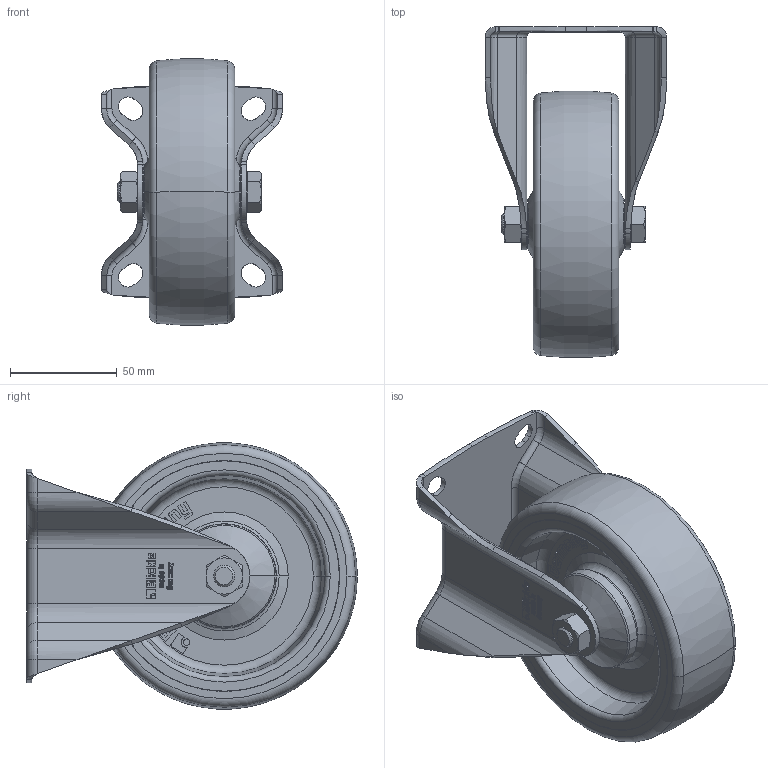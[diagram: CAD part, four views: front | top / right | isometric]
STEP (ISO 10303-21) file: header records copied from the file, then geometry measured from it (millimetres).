
FILE_DESCRIPTION (( 'STEP AP214' ), '1' );
FILE_NAME ('BK-POTHS_125KA-1_936308-214.step', '2021-12-07T10:44:00', ( '' ), ( '' ), 'SwSTEP 2.0', 'SolidWorks 2018', '' );
FILE_SCHEMA (( 'AUTOMOTIVE_DESIGN' ));
Length unit declared in the file: millimetre
Products named in the file (5): GH-BK_80-125_GH-BK-125x45-01_10x46; GH-BK-125x45-01_10x46_G16_3D; POTHS_125_10KA_G16_3D; POTHS_3D_G16_POTHS_125_10K_933121; BK-POTHS_125KA-1_936308-214
Assembly tree (4 placements, depth 3):
  BK-POTHS_125KA-1_936308-214
    GH-BK_80-125_GH-BK-125x45-01_10x46
      GH-BK-125x45-01_10x46_G16_3D
    POTHS_3D_G16_POTHS_125_10K_933121
      POTHS_125_10KA_G16_3D
Bounding box: 85 x 154.88 x 124.55 mm (x, y, z)
Volume: 350579 mm3; surface area: 112801.9 mm2
Topology: 2 solids, 6 shells, 1789 faces, 4718 edges, 3077 vertices
Faces by surface type: plane 868, bspline 640, cylinder 112, torus 86, cone 83
Entity records: 74154 total; most frequent: CARTESIAN_POINT 22677, ORIENTED_EDGE 9436, DIRECTION 6201, EDGE_CURVE 4718, VERTEX_POINT 3077, VECTOR 2851, LINE 2851, EDGE_LOOP 1945
